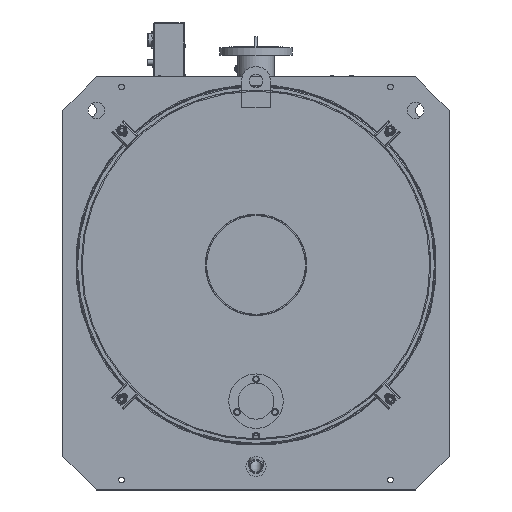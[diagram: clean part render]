
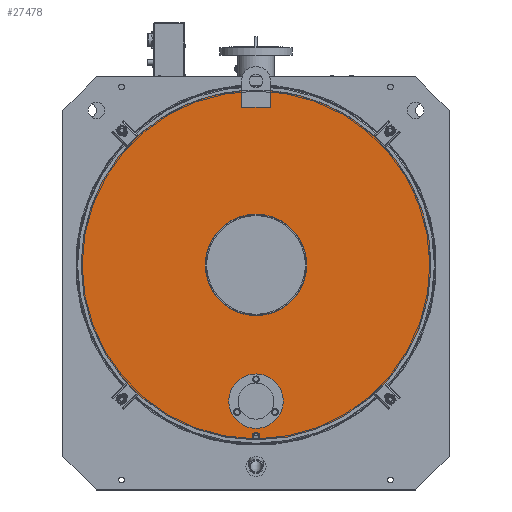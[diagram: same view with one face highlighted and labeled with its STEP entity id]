
A CAD part, left-side view. The second image highlights one B-rep face of the part: STEP entity #27478.
In plain terms, the highlighted planar face has unit normal (-1, 0, 0) by its records, which use the part's own axes.
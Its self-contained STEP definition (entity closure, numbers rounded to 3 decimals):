
#27478=ADVANCED_FACE('',(#90837,#90839,#90841),#90843,.T.);
#90837=FACE_BOUND('',#90838,.T.);
#90838=EDGE_LOOP('',(#125904,#125905,#125906,#125907,#125908,#125909,#125910,#125911,
#125912));
#90839=FACE_BOUND('',#90840,.T.);
#90840=EDGE_LOOP('',(#125913));
#90841=FACE_BOUND('',#90842,.T.);
#90842=EDGE_LOOP('',(#125914));
#90843=PLANE('',#90844);
#90844=AXIS2_PLACEMENT_3D('',#90845,#90846,#90847);
#90845=CARTESIAN_POINT('',(-1871.,0.,0.));
#90846=DIRECTION('',(-1.,0.,0.));
#90847=DIRECTION('',(0.,-1.,0.));
#125904=ORIENTED_EDGE('',*,*,#140593,.F.);
#125905=ORIENTED_EDGE('',*,*,#140594,.F.);
#125906=ORIENTED_EDGE('',*,*,#140595,.F.);
#125907=ORIENTED_EDGE('',*,*,#140524,.T.);
#125908=ORIENTED_EDGE('',*,*,#140523,.T.);
#125909=ORIENTED_EDGE('',*,*,#140596,.T.);
#125910=ORIENTED_EDGE('',*,*,#140597,.T.);
#125911=ORIENTED_EDGE('',*,*,#140598,.T.);
#125912=ORIENTED_EDGE('',*,*,#140526,.T.);
#125913=ORIENTED_EDGE('',*,*,#140599,.T.);
#125914=ORIENTED_EDGE('',*,*,#140600,.F.);
#140523=EDGE_CURVE('',#156658,#156656,#156659,.T.);
#140524=EDGE_CURVE('',#156660,#156658,#156661,.T.);
#140526=EDGE_CURVE('',#156664,#156662,#156665,.T.);
#140593=EDGE_CURVE('',#156781,#156662,#156782,.T.);
#140594=EDGE_CURVE('',#156783,#156781,#156784,.T.);
#140595=EDGE_CURVE('',#156660,#156783,#156785,.T.);
#140596=EDGE_CURVE('',#156656,#156786,#156787,.F.);
#140597=EDGE_CURVE('',#156786,#156788,#156789,.F.);
#140598=EDGE_CURVE('',#156788,#156664,#156790,.F.);
#140599=EDGE_CURVE('',#156791,#156791,#156792,.F.);
#140600=EDGE_CURVE('',#156793,#156793,#156794,.T.);
#156656=VERTEX_POINT('',#219467);
#156658=VERTEX_POINT('',#219471);
#156659=CIRCLE('',#219472,520.5);
#156660=VERTEX_POINT('',#219476);
#156661=CIRCLE('',#219477,520.5);
#156662=VERTEX_POINT('',#219481);
#156664=VERTEX_POINT('',#219486);
#156665=CIRCLE('',#219487,520.5);
#156781=VERTEX_POINT('',#219772);
#156782=LINE('',#219773,#219774);
#156783=VERTEX_POINT('',#219776);
#156784=LINE('',#219777,#219778);
#156785=LINE('',#219780,#219781);
#156786=VERTEX_POINT('',#219783);
#156787=LINE('',#219784,#219785);
#156788=VERTEX_POINT('',#219787);
#156789=CIRCLE('',#219788,11.);
#156790=LINE('',#219792,#219793);
#156791=VERTEX_POINT('',#219795);
#156792=CIRCLE('',#219796,151.);
#156793=VERTEX_POINT('',#219800);
#156794=CIRCLE('',#219801,81.);
#219467=CARTESIAN_POINT('',(-1871.,4.583,-520.48));
#219471=CARTESIAN_POINT('',(-1871.,520.5,-0.378));
#219472=AXIS2_PLACEMENT_3D('',#219473,#219474,#219475);
#219473=CARTESIAN_POINT('',(-1871.,0.,0.));
#219474=DIRECTION('',(-1.,0.,0.));
#219475=DIRECTION('',(0.,1.,-0.001));
#219476=CARTESIAN_POINT('',(-1871.,43.,518.721));
#219477=AXIS2_PLACEMENT_3D('',#219478,#219479,#219480);
#219478=CARTESIAN_POINT('',(-1871.,0.,0.));
#219479=DIRECTION('',(-1.,0.,0.));
#219480=DIRECTION('',(0.,0.083,0.997));
#219481=CARTESIAN_POINT('',(-1871.,-43.,518.721));
#219486=CARTESIAN_POINT('',(-1871.,-4.583,-520.48));
#219487=AXIS2_PLACEMENT_3D('',#219488,#219489,#219490);
#219488=CARTESIAN_POINT('',(-1871.,0.,0.));
#219489=DIRECTION('',(-1.,0.,0.));
#219490=DIRECTION('',(0.,-0.009,-1.));
#219772=CARTESIAN_POINT('',(-1871.,-43.,469.5));
#219773=CARTESIAN_POINT('',(-1871.,-43.,469.5));
#219774=VECTOR('',#219775,1.);
#219775=DIRECTION('',(0.,0.,1.));
#219776=CARTESIAN_POINT('',(-1871.,43.,469.5));
#219777=CARTESIAN_POINT('',(-1871.,43.,469.5));
#219778=VECTOR('',#219779,1.);
#219779=DIRECTION('',(0.,-1.,0.));
#219780=CARTESIAN_POINT('',(-1871.,43.,518.721));
#219781=VECTOR('',#219782,1.);
#219782=DIRECTION('',(0.,0.,-1.));
#219783=CARTESIAN_POINT('',(-1871.,4.583,-519.5));
#219784=CARTESIAN_POINT('',(-1871.,4.583,-519.5));
#219785=VECTOR('',#219786,1.);
#219786=DIRECTION('',(0.,0.,-1.));
#219787=CARTESIAN_POINT('',(-1871.,-4.583,-519.5));
#219788=AXIS2_PLACEMENT_3D('',#219789,#219790,#219791);
#219789=CARTESIAN_POINT('',(-1871.,0.,-509.5));
#219790=DIRECTION('',(-1.,0.,0.));
#219791=DIRECTION('',(0.,-0.417,-0.909));
#219792=CARTESIAN_POINT('',(-1871.,-4.583,-520.48));
#219793=VECTOR('',#219794,1.);
#219794=DIRECTION('',(0.,0.,1.));
#219795=CARTESIAN_POINT('',(-1871.,-151.,0.));
#219796=AXIS2_PLACEMENT_3D('',#219797,#219798,#219799);
#219797=CARTESIAN_POINT('',(-1871.,0.,0.));
#219798=DIRECTION('',(-1.,0.,0.));
#219799=DIRECTION('',(0.,-1.,0.));
#219800=CARTESIAN_POINT('',(-1871.,-81.,-405.5));
#219801=AXIS2_PLACEMENT_3D('',#219802,#219803,#219804);
#219802=CARTESIAN_POINT('',(-1871.,0.,-405.5));
#219803=DIRECTION('',(-1.,0.,0.));
#219804=DIRECTION('',(0.,-1.,0.));
